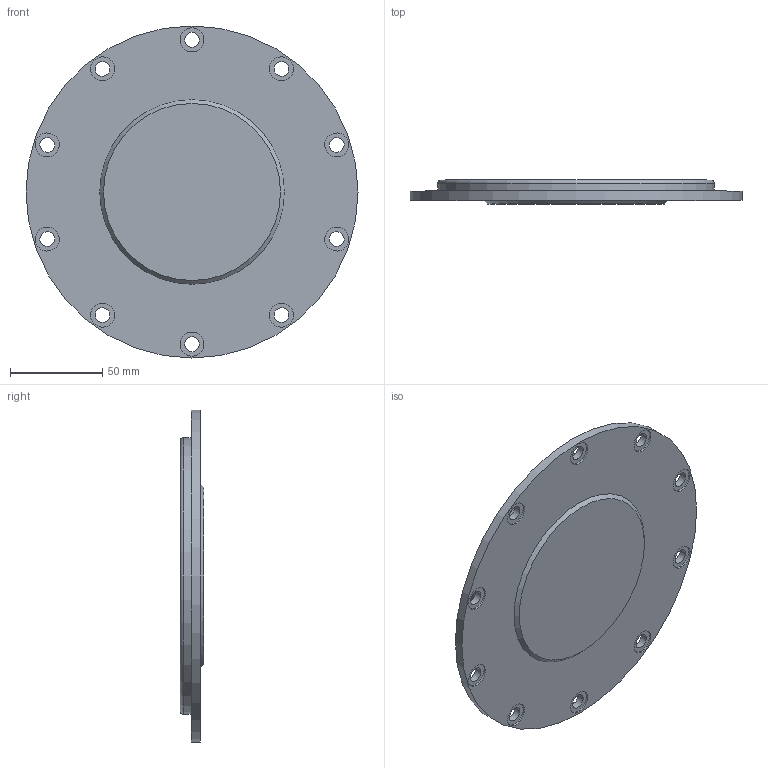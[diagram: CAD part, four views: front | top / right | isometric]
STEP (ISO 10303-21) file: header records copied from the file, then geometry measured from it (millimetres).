
FILE_DESCRIPTION(/* description */ (''),/* implementation_level */ '2;1');
FILE_NAME(/* name */ 'G:\YandexDisk\Работа\Inventor\Универ\ОАП\Лабораторные работы\ЛР6 Создание сборок\Редуктор\stp\Подшипниковый щит 5 2.stp',/* time_stamp */ '2023-11-17T06:35:32+03:00',/* author */ ('34740'),/* organization */ (''),/* preprocessor_version */ 'ST-DEVELOPER v18.1',/* originating_system */ 'Autodesk Inventor 2022',/* authorisation */ '');
FILE_SCHEMA (('AUTOMOTIVE_DESIGN { 1 0 10303 214 3 1 1 }'));
Length unit declared in the file: millimetre
Products named in the file (1): Подшипниковый 
щит 5 2
Bounding box: 180 x 13 x 180 mm (x, y, z)
Volume: 159990.8 mm3; surface area: 58608.9 mm2
Topology: 1 solids, 1 shells, 42 faces, 81 edges, 54 vertices
Faces by surface type: cylinder 23, plane 15, torus 3, cone 1
Full cylindrical faces by diameter (mm): 8 x10, 13 x10, 134 x1, 150 x1, 180 x1
Entity records: 1183 total; most frequent: DIRECTION 224, CARTESIAN_POINT 178, ORIENTED_EDGE 162, AXIS2_PLACEMENT_3D 100, EDGE_CURVE 81, EDGE_LOOP 75, CIRCLE 57, VERTEX_POINT 54
